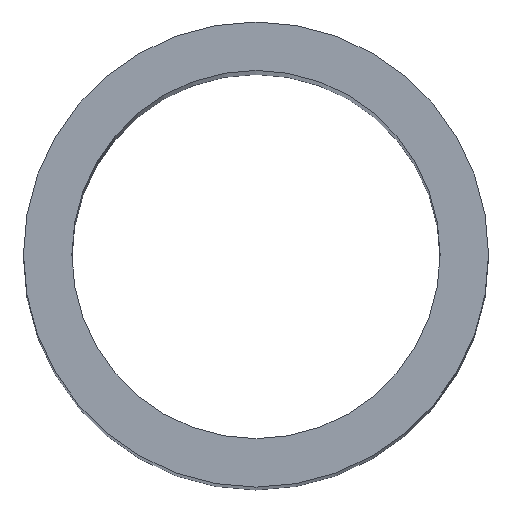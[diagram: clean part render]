
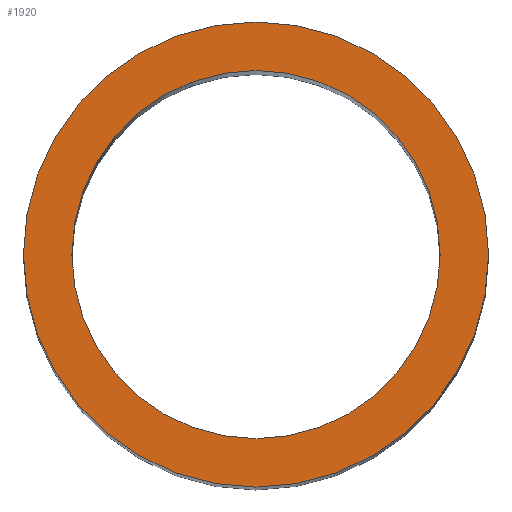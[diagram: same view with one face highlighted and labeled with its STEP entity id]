
A CAD part, top view. The second image highlights one B-rep face of the part: STEP entity #1920.
In plain terms, the highlighted planar face has unit normal (0, 0, 1).
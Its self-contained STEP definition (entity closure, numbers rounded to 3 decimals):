
#1570=CARTESIAN_POINT('',(0.,0.,120.));
#1580=DIRECTION('',(0.,0.,1.));
#1590=DIRECTION('',(1.,0.,0.));
#1600=AXIS2_PLACEMENT_3D('',#1570,#1580,#1590);
#1610=PLANE('',#1600);
#1620=CARTESIAN_POINT('',(49.612,48.576,120.));
#1630=DIRECTION('',(0.,0.,1.));
#1640=DIRECTION('',(1.,0.,0.));
#1650=AXIS2_PLACEMENT_3D('',#1620,#1630,#1640);
#1660=CIRCLE('',#1650,12.);
#1670=CARTESIAN_POINT('',(61.612,48.576,120.));
#1680=VERTEX_POINT('',#1670);
#1690=CARTESIAN_POINT('',(37.612,48.576,120.));
#1700=VERTEX_POINT('',#1690);
#1710=EDGE_CURVE('',#1680,#1700,#1660,.T.);
#1720=ORIENTED_EDGE('',*,*,#1710,.T.);
#1730=EDGE_CURVE('',#1700,#1680,#1660,.T.);
#1740=ORIENTED_EDGE('',*,*,#1730,.T.);
#1750=EDGE_LOOP('',(#1740,#1720));
#1760=FACE_OUTER_BOUND('',#1750,.T.);
#1770=CARTESIAN_POINT('',(49.612,48.576,120.));
#1780=DIRECTION('',(0.,0.,1.));
#1790=DIRECTION('',(1.,0.,0.));
#1800=AXIS2_PLACEMENT_3D('',#1770,#1780,#1790);
#1810=CIRCLE('',#1800,9.5);
#1820=CARTESIAN_POINT('',(59.112,48.576,120.));
#1830=VERTEX_POINT('',#1820);
#1840=CARTESIAN_POINT('',(40.112,48.576,120.));
#1850=VERTEX_POINT('',#1840);
#1860=EDGE_CURVE('',#1830,#1850,#1810,.T.);
#1870=ORIENTED_EDGE('',*,*,#1860,.F.);
#1880=EDGE_CURVE('',#1850,#1830,#1810,.T.);
#1890=ORIENTED_EDGE('',*,*,#1880,.F.);
#1900=EDGE_LOOP('',(#1890,#1870));
#1910=FACE_BOUND('',#1900,.T.);
#1920=ADVANCED_FACE('',(#1760,#1910),#1610,.T.);
